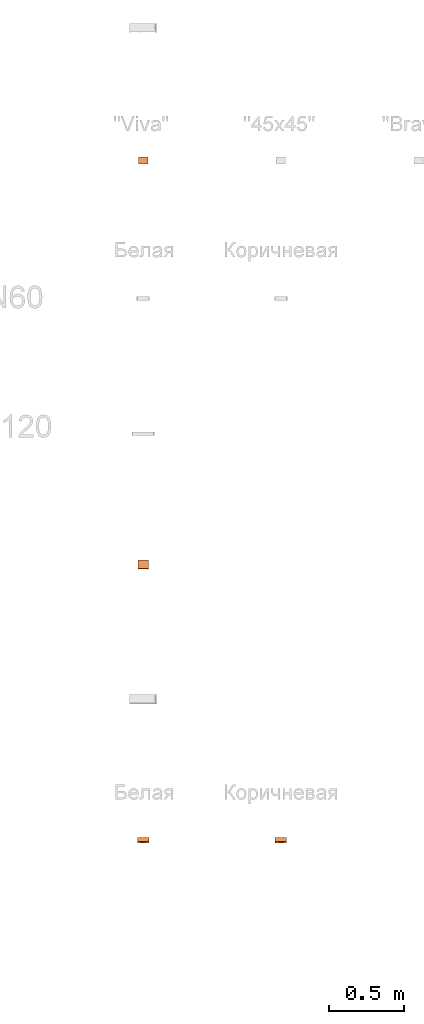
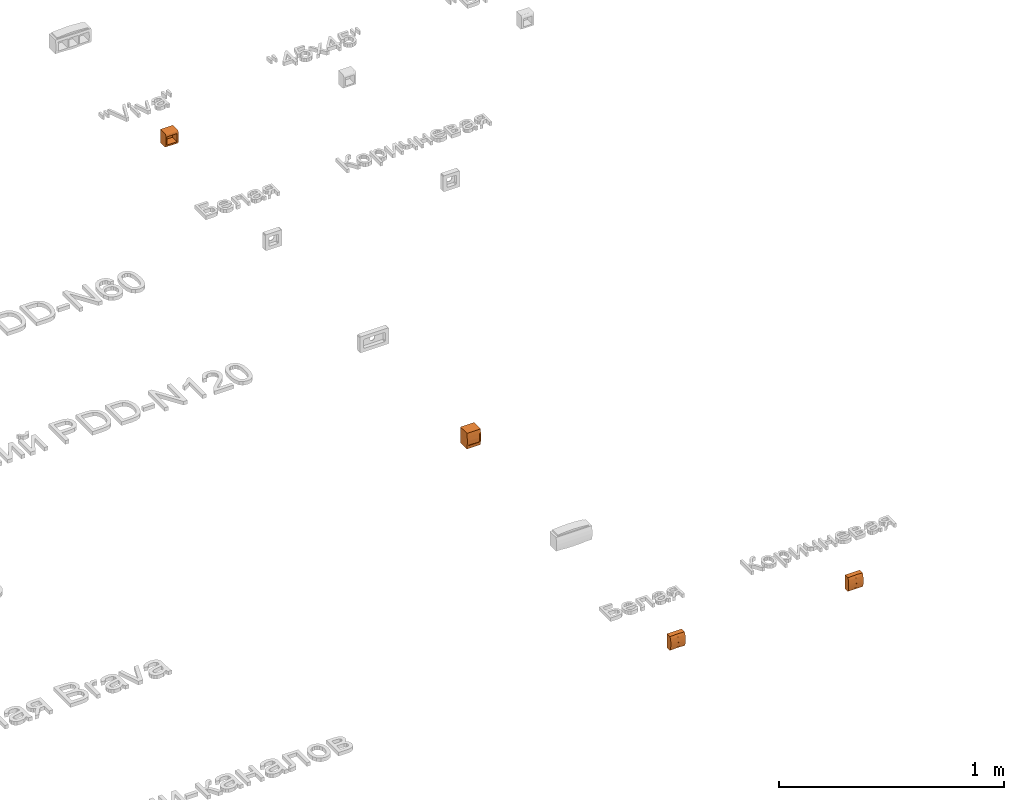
# One storey, part 79 of 87: 4 proxies.
"""IFC2X3 building model written with IfcOpenShell, lengths in millimetres."""

from ifc_helpers import new_model, entity, si_unit, converted_unit, derived_unit, direction, frame, origin, place, context, subcontext, project, spatial, faceted_brep, source, transform, mapped, material, material_list, type_object, type_shapes, element, save


model = new_model("IFC2X3")

# Units and contexts
model_context = context("Model", 3, precision=0.01, world=origin(), true_north=direction((6.12303176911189e-17, 1.0)))
body_context = subcontext(model_context, "Body", "Model", "MODEL_VIEW")
ifc_project = project(units=[si_unit("LENGTHUNIT", "METRE", prefix="MILLI"), si_unit("AREAUNIT", "SQUARE_METRE"), si_unit("VOLUMEUNIT", "CUBIC_METRE"), converted_unit("PLANEANGLEUNIT", "DEGREE", entity("IfcRatioMeasure", 0.0174532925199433), si_unit("PLANEANGLEUNIT", "RADIAN"), dimensions=[0, 0, 0, 0, 0, 0, 0]), si_unit("MASSUNIT", "GRAM", prefix="KILO"), derived_unit("MASSDENSITYUNIT", [(si_unit("MASSUNIT", "GRAM", prefix="KILO"), 1), (si_unit("LENGTHUNIT", "METRE"), -3)]), si_unit("TIMEUNIT", "SECOND"), si_unit("FREQUENCYUNIT", "HERTZ"), si_unit("THERMODYNAMICTEMPERATUREUNIT", "DEGREE_CELSIUS"), derived_unit("THERMALTRANSMITTANCEUNIT", [(si_unit("MASSUNIT", "GRAM", prefix="KILO"), 1), (si_unit("THERMODYNAMICTEMPERATUREUNIT", "KELVIN"), -1), (si_unit("TIMEUNIT", "SECOND"), -3)]), derived_unit("VOLUMETRICFLOWRATEUNIT", [(si_unit("LENGTHUNIT", "METRE"), 3), (si_unit("TIMEUNIT", "SECOND"), -1)]), si_unit("ELECTRICCURRENTUNIT", "AMPERE"), si_unit("ELECTRICVOLTAGEUNIT", "VOLT"), si_unit("POWERUNIT", "WATT"), si_unit("FORCEUNIT", "NEWTON", prefix="KILO"), si_unit("ILLUMINANCEUNIT", "LUX"), si_unit("LUMINOUSFLUXUNIT", "LUMEN"), si_unit("LUMINOUSINTENSITYUNIT", "CANDELA"), derived_unit("USERDEFINED", [(si_unit("MASSUNIT", "GRAM", prefix="KILO"), -1), (si_unit("LENGTHUNIT", "METRE"), -2), (si_unit("TIMEUNIT", "SECOND"), 3), (si_unit("LUMINOUSFLUXUNIT", "LUMEN"), 1)]), derived_unit("LINEARVELOCITYUNIT", [(si_unit("LENGTHUNIT", "METRE"), 1), (si_unit("TIMEUNIT", "SECOND"), -1)]), si_unit("PRESSUREUNIT", "PASCAL"), derived_unit("USERDEFINED", [(si_unit("LENGTHUNIT", "METRE"), -2), (si_unit("MASSUNIT", "GRAM", prefix="KILO"), 1), (si_unit("TIMEUNIT", "SECOND"), -2)])], contexts=[model_context])

# Site, building, storey
site_placement = place(None, origin())
site = spatial("IfcSite", under=ifc_project, at=site_placement, Name="Default", CompositionType="ELEMENT")
building_placement = place(site_placement, origin())
building = spatial("IfcBuilding", under=site, at=building_placement, Name="Наименование здания", CompositionType="ELEMENT")
storey_placement = place(building_placement, origin())
storey = spatial("IfcBuildingStorey", under=building, at=storey_placement, Name="Этаж 01", CompositionType="ELEMENT", Elevation=0.0)

# Proxies
ifc_material_1 = material(Name="DKC_Стекло")
ifc_material_2 = material(Name="DKC_Пластик_Белый")
ifc_material_list_1 = material_list([ifc_material_1, ifc_material_2])
ifc_material_list_2 = material_list([ifc_material_1, ifc_material_2])
building_element_proxy_type_1 = type_object("IfcBuildingElementProxyType", Name="Коробка для настенного монтажа, IP55_ILF_DKC", PredefinedType="NOTDEFINED", material=ifc_material_list_2)
shared_shape_1 = source(origin(), body_context, "Body", "Brep", [
    faceted_brep([(29.5, -58.2802164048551, -25.0), (29.5, -55.5236924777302, -25.0), (29.5, -55.5236924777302, 25.0), (29.5, -58.2802164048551, 25.0), (29.5, -60.0356017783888, 0.0), (-29.5000000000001, -58.2802164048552, 25.0), (-29.5000000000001, -55.5236924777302, 25.0), (-29.5000000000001, -55.5236924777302, -25.0), (-29.5000000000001, -58.2802164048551, -25.0), (-29.5000000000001, -60.0356017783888, 0.0)], [[[0, 1, 2, 3, 4]], [[5, 6, 7, 8, 9]], [[2, 1, 7, 6]], [[3, 2, 6, 5]], [[3, 5, 9, 4]], [[9, 8, 0, 4]], [[1, 0, 8, 7]]]),
    faceted_brep([(-24.5000000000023, -10.0, 25.0), (-28.035533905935, -10.0, 23.5355339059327), (-29.5000000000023, -10.0, 20.0), (-29.5000000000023, -10.0, -20.0), (-28.0355339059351, -10.0, -23.5355339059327), (-24.5000000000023, -10.0, -25.0), (24.5000000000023, -10.0, -25.0), (28.035533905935, -10.0, -23.5355339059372), (29.4999999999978, -10.0, -20.0), (29.5000000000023, -10.0, 20.0), (28.0355339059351, -10.0, 23.5355339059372), (24.5000000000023, -10.0, 25.0), (-24.5000000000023, -61.0404900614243, 25.0), (-24.5000000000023, -29.5192223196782, 25.0), (24.5000000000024, -29.5192235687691, 25.0), (24.5000000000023, -61.0404900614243, 25.0), (-5.66039347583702e-06, -61.0404900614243, 25.0), (-29.5000000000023, -42.0393486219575, 20.0), (-27.7357175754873, -35.6051790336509, 23.8118409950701), (-28.0403500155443, -61.2048111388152, 23.5307112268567), (-29.5000000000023, -61.5585715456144, 20.0), (-29.5000000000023, -62.4765697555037, 0.0), (-29.5000000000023, -61.5585715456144, -20.0), (-29.5000000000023, -42.0393490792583, -20.0), (-28.319432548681, -35.6003201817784, -23.2267530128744), (-24.5000000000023, -61.0404900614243, -25.0), (-24.5000000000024, -29.5192230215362, -25.0), (-28.038982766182, -61.2046625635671, -23.5320816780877), (24.5000000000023, -61.0404900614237, -25.0), (24.5000000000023, -29.5192227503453, -25.0), (0.0, -61.0404900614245, -25.0), (29.5000000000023, -42.0393480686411, -20.0), (27.7357175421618, -35.605178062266, -23.8118410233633), (28.0403500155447, -61.2048111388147, -23.5307112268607), (29.5000000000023, -61.5585715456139, -20.0), (29.5, -62.4765697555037, 0.0), (29.5000000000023, -61.5585715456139, 20.0), (29.5000000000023, -42.0393479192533, 20.0), (28.3195072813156, -35.5996010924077, 23.2266645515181), (28.0403500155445, -61.2048111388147, 23.5307112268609), (35.0, 0.0, -42.5000000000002), (35.0, 0.0, 42.5), (35.0, -58.2999999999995, 42.5000000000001), (35.0, -60.3882848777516, 21.2500000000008), (35.0, -62.4765697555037, 0.0), (35.0, -60.3882848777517, -21.2499999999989), (35.0, -58.2999999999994, -42.5000000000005), (-35.0, 0.0, 42.5), (-35.0, 0.0, -42.5000000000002), (-35.0, -58.2999999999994, -42.5000000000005), (-35.0, -60.3882848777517, -21.249999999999), (-35.0, -62.4765697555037, 0.0), (-35.0, -60.3882848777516, 21.2500000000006), (-35.0, -58.2999999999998, 42.4999999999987), (7.28068042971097e-06, -58.2999999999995, 42.5000000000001), (0.0, -58.2999999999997, -42.4999999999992)], [[[0, 1, 2, 3, 4, 5, 6, 7, 8, 9, 10, 11]], [[12, 13, 0, 11, 14, 15, 16]], [[17, 2, 18]], [[1, 0, 13]], [[1, 13, 18]], [[13, 12, 18]], [[18, 19, 17]], [[19, 18, 12]], [[2, 1, 18]], [[19, 20, 17]], [[21, 22, 23, 3, 2, 17, 20]], [[4, 3, 24]], [[24, 25, 26]], [[27, 24, 23]], [[26, 5, 4]], [[23, 22, 27]], [[4, 24, 26]], [[24, 27, 25]], [[23, 24, 3]], [[28, 29, 6, 5, 26, 25, 30]], [[31, 8, 32]], [[6, 29, 7]], [[7, 29, 32]], [[32, 33, 31]], [[33, 34, 31]], [[8, 7, 32]], [[33, 32, 28]], [[28, 32, 29]], [[35, 36, 37, 9, 8, 31, 34]], [[10, 9, 38]], [[38, 15, 14]], [[39, 38, 37]], [[14, 11, 10]], [[10, 38, 14]], [[37, 38, 9]], [[38, 39, 15]], [[37, 36, 39]], [[40, 41, 42, 43, 44, 45, 46]], [[47, 48, 49, 50, 51, 52, 53]], [[41, 40, 48, 47]], [[41, 47, 53, 54, 42]], [[12, 16, 15, 42, 54, 53]], [[19, 12, 53]], [[19, 53, 52]], [[55, 46, 28, 30, 25, 49]], [[52, 51, 20]], [[39, 36, 43]], [[39, 42, 15]], [[36, 35, 44]], [[51, 21, 20]], [[33, 45, 34]], [[44, 35, 34]], [[21, 51, 22]], [[43, 42, 39]], [[19, 52, 20]], [[50, 27, 22]], [[27, 50, 49]], [[27, 49, 25]], [[22, 51, 50]], [[36, 44, 43]], [[33, 46, 45]], [[28, 46, 33]], [[34, 45, 44]], [[40, 46, 55, 49, 48]]]),
])
type_shapes(building_element_proxy_type_1, [shared_shape_1])
proxy_1_placement = place(storey_placement, frame((44616.893252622, 497.914626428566, 0.0)))
element("IfcBuildingElementProxy", 1, at=proxy_1_placement, inside=storey, type_object=building_element_proxy_type_1, material=ifc_material_list_1, Name="КНС_КоробкаДляНастенногоМонтажаIP55_ILF_DKC:Коробка для настенного монтажа, IP55_ILF_DKC", ObjectType="Коробка для настенного монтажа, IP55_ILF_DKC", context=body_context, shape_type="MappedRepresentation", body=[
    mapped(shared_shape_1, transform((0.0, 0.0, 0.0), scale=1.0)),
])
building_element_proxy_type_2 = type_object("IfcBuildingElementProxyType", Name="Viva", PredefinedType="NOTDEFINED", material=ifc_material_2)
shared_shape_2 = source(origin(), body_context, "Body", "Brep", [
    faceted_brep([(32.0, -46.7740728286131, -28.2352380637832), (32.0, -45.5253175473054, -31.2500000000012), (32.0, -43.5388347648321, -33.8388347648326), (32.0, -40.9500000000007, -35.8253175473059), (32.0, -37.9352380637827, -37.0740728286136), (32.0, -34.7000000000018, -37.5000000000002), (32.0, 0.0, -37.5000000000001), (32.0, 0.0, 37.5000000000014), (32.0, -37.2000000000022, 37.4999999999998), (32.0, -39.788190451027, 37.1592582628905), (32.0, -42.2000000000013, 36.1602540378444), (32.0, -44.2710678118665, 34.5710678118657), (32.0, -45.8602540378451, 32.5000000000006), (32.0, -46.8592582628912, 30.0881904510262), (32.0, -47.1999999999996, 27.4999999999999), (32.0, -47.1999999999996, -25.0), (-32.0, -47.2000000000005, 27.5000000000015), (-32.0, -46.8592582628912, 30.0881904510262), (-32.0, -45.8602540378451, 32.5000000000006), (-32.0, -44.2710678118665, 34.5710678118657), (-32.0, -42.2000000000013, 36.1602540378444), (-32.0, -39.788190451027, 37.1592582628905), (-32.0, -37.2000000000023, 37.4999999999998), (-32.0, 0.0, 37.5000000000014), (-32.0, 0.0, -37.5000000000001), (-32.0, -34.7000000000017, -37.5000000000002), (-32.0, -37.9352380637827, -37.0740728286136), (-32.0, -40.9500000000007, -35.8253175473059), (-32.0, -43.5388347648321, -33.8388347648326), (-32.0, -45.5253175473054, -31.2500000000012), (-32.0, -46.7740728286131, -28.2352380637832), (-32.0, -47.1999999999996, -25.0), (-25.0, -6.30848607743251, 22.5000000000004), (-25.0, -6.30848607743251, -22.5000000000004), (25.0, -6.30848607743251, -22.5000000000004), (25.0, -6.30848607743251, 22.5000000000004), (-25.0, -47.1999999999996, 22.5000000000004), (-25.0, -47.1999999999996, -22.5000000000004), (25.0, -47.1999999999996, -22.5000000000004), (25.0, -47.1999999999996, 22.5000000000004)], [[[0, 1, 2, 3, 4, 5, 6, 7, 8, 9, 10, 11, 12, 13, 14, 15]], [[16, 17, 18, 19, 20, 21, 22, 23, 24, 25, 26, 27, 28, 29, 30, 31]], [[7, 6, 24, 23]], [[8, 7, 23, 22]], [[6, 5, 25, 24]], [[32, 33, 34, 35]], [[32, 36, 37, 33]], [[33, 37, 38, 34]], [[34, 38, 39, 35]], [[32, 35, 39, 36]], [[9, 8, 22, 21]], [[10, 9, 21, 20]], [[11, 10, 20, 19]], [[19, 18, 12, 11]], [[12, 18, 17, 13]], [[14, 13, 17, 16]], [[14, 39, 15]], [[39, 14, 36]], [[16, 36, 14]], [[36, 16, 31]], [[37, 31, 15]], [[31, 37, 36]], [[38, 15, 39]], [[15, 38, 37]], [[0, 15, 31, 30]], [[1, 0, 30, 29]], [[2, 1, 29, 28]], [[3, 2, 28, 27]], [[4, 3, 27, 26]], [[5, 4, 26, 25]]]),
])
type_shapes(building_element_proxy_type_2, [shared_shape_2])
proxy_2_placement = place(storey_placement, frame((44616.893252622, 3174.06426232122, 0.0)))
element("IfcBuildingElementProxy", 2, at=proxy_2_placement, inside=storey, type_object=building_element_proxy_type_2, material=ifc_material_2, Name="КНС_КоробкаМонтажнаяПод2модуляЭлектроустановочныхИзделий_ILF_DKC:Viva", ObjectType="Viva", context=body_context, shape_type="MappedRepresentation", body=[
    mapped(shared_shape_2, transform((0.0, 0.0, 0.0), scale=1.0)),
])
building_element_proxy_type_3 = type_object("IfcBuildingElementProxyType", Name="Белый", PredefinedType="NOTDEFINED", material=ifc_material_2)
shared_shape_3 = source(origin(), body_context, "Body", "Brep", [
    faceted_brep([(37.75, -33.7492791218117, -8.40016525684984), (37.75, -33.3087374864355, -13.7916236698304), (37.75, -32.6602540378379, -18.874999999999), (37.75, -31.8183148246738, -23.5367400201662), (37.75, -30.8017273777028, -27.672708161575), (37.75, -29.6332005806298, -31.1905137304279), (37.75, -28.3388373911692, -34.0115747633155), (37.75, -26.9475517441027, -36.072873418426), (37.75, -25.4904226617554, -37.3283636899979), (37.75, -24.0, -37.7499999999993), (37.75, 0.0, -37.7499999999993), (37.75, 0.0, 37.7500000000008), (37.75, -24.0, 37.7500000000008), (37.75, -25.4904226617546, 37.3283636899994), (37.75, -26.9475517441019, 36.0728734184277), (37.75, -28.3388373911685, 34.0115747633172), (37.75, -29.6332005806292, 31.1905137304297), (37.75, -30.8017273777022, 27.6727081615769), (37.75, -31.8183148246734, 23.5367400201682), (37.75, -32.6602540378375, 18.875000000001), (37.75, -33.3087374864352, 13.7916236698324), (37.75, -33.7492791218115, 8.40016525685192), (37.75, -33.9720379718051, 2.82106103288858), (37.75, -33.9720379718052, -2.82106103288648), (-37.75, -24.0, -37.7499999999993), (-37.75, -25.4904226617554, -37.3283636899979), (-37.75, -26.9475517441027, -36.072873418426), (-37.75, -28.3388373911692, -34.0115747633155), (-37.75, -29.6332005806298, -31.1905137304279), (-37.75, -30.8017273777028, -27.672708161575), (-37.75, -31.8183148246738, -23.5367400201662), (-37.75, -32.6602540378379, -18.874999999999), (-37.75, -33.3087374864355, -13.7916236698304), (-37.75, -33.7492791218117, -8.40016525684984), (-37.75, -33.9720379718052, -2.82106103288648), (-37.75, -33.9720379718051, 2.82106103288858), (-37.75, -33.7492791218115, 8.40016525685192), (-37.75, -33.3087374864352, 13.7916236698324), (-37.75, -32.6602540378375, 18.875000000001), (-37.75, -31.8183148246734, 23.5367400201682), (-37.75, -30.8017273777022, 27.6727081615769), (-37.75, -29.6332005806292, 31.1905137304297), (-37.75, -28.3388373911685, 34.0115747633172), (-37.75, -26.9475517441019, 36.0728734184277), (-37.75, -25.4904226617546, 37.3283636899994), (-37.75, -24.0, 37.7500000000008), (-37.75, 0.0, 37.7500000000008), (-37.75, 0.0, -37.7499999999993), (9.5626159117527, -24.0, 37.7500000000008), (-7.87059281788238e-06, -31.33051930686, 25.6765184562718), (9.5626150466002, -24.0, -37.7499999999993), (-8.91281962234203e-08, -31.3305185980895, -25.6765213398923), (0.868625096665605, -33.9145668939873, 4.92397100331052), (2.50060251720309, -33.93400622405, 4.32977909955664), (4.69856269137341, -33.9897372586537, 1.70982707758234), (3.83106840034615, -33.9637150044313, 3.21292933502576), (5.0, -34.0, 0.0), (-3.82962468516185, -33.9636760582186, 3.21465002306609), (-2.50025578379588, -33.9340000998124, 4.32997933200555), (-0.867399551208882, -33.9145593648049, 4.92418704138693), (-4.69844984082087, -33.9897335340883, 1.71013715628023), (-5.0, -34.0, 0.0), (4.69856269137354, -33.9897372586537, -1.70982707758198), (2.50060251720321, -33.93400622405, -4.32977909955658), (3.83106840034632, -33.9637150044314, -3.21292933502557), (0.868625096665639, -33.9145668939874, -4.92397100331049), (-3.82962468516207, -33.9636760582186, -3.21465002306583), (-4.69844984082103, -33.9897335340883, -1.71013715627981), (-0.867399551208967, -33.9145593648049, -4.92418704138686), (-2.50025578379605, -33.9340000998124, -4.32997933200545), (2.5, -32.3886043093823, 4.33012701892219), (1.29409522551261, -32.3886043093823, 4.82962913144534), (0.0, -32.3886043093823, 5.0), (-1.2940952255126, -32.3886043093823, 4.82962913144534), (-2.49999999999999, -32.3886043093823, 4.3301270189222), (-3.53553390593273, -32.3886043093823, 3.53553390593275), (-4.33012701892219, -32.3886043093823, 2.50000000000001), (-4.82962913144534, -32.3886043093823, 1.29409522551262), (-5.0, -32.3886043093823, 0.0), (-4.82962913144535, -32.3886043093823, -1.29409522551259), (-4.3301270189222, -32.3886043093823, -2.49999999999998), (-3.53553390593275, -32.3886043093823, -3.53553390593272), (-2.50000000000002, -32.3886043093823, -4.33012701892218), (-1.29409522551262, -32.3886043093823, -4.82962913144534), (0.0, -32.3886043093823, -5.0), (1.29409522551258, -32.3886043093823, -4.82962913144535), (2.49999999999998, -32.3886043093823, -4.33012701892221), (3.53553390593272, -32.3886043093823, -3.53553390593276), (4.33012701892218, -32.3886043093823, -2.50000000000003), (4.82962913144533, -32.3886043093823, -1.29409522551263), (5.0, -32.3886043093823, 0.0), (4.82962913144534, -32.3886043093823, 1.2940952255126), (4.33012701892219, -32.3886043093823, 2.5), (3.53553390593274, -32.3886043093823, 3.53553390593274)], [[[0, 1, 2, 3, 4, 5, 6, 7, 8, 9, 10, 11, 12, 13, 14, 15, 16, 17, 18, 19, 20, 21, 22, 23]], [[24, 25, 26, 27, 28, 29, 30, 31, 32, 33, 34, 35, 36, 37, 38, 39, 40, 41, 42, 43, 44, 45, 46, 47]], [[15, 14, 48]], [[16, 15, 49]], [[15, 48, 49]], [[50, 51, 27]], [[18, 17, 49]], [[39, 49, 40]], [[49, 17, 16]], [[49, 48, 42]], [[20, 49, 52]], [[53, 21, 20]], [[21, 54, 22]], [[21, 53, 55]], [[22, 54, 56]], [[54, 21, 55]], [[56, 23, 22]], [[19, 49, 20]], [[20, 52, 53]], [[48, 13, 12]], [[48, 45, 44]], [[43, 42, 48]], [[49, 19, 18]], [[41, 40, 49]], [[42, 41, 49]], [[50, 7, 6]], [[51, 30, 29]], [[48, 14, 13]], [[39, 38, 49]], [[48, 44, 43]], [[49, 38, 37]], [[36, 57, 58]], [[37, 58, 59]], [[36, 58, 37]], [[60, 35, 61]], [[36, 35, 60]], [[36, 60, 57]], [[59, 49, 37]], [[49, 59, 52]], [[0, 23, 62]], [[1, 0, 63]], [[0, 62, 64]], [[1, 63, 65]], [[63, 0, 64]], [[1, 51, 2]], [[26, 25, 50]], [[50, 8, 7]], [[50, 9, 8]], [[50, 25, 24]], [[51, 3, 2]], [[51, 6, 5]], [[51, 50, 6]], [[51, 4, 3]], [[33, 66, 67]], [[32, 68, 69]], [[33, 69, 66]], [[35, 34, 61]], [[34, 67, 61]], [[33, 67, 34]], [[33, 32, 69]], [[68, 32, 51]], [[68, 51, 65]], [[1, 65, 51]], [[51, 32, 31]], [[31, 30, 51]], [[51, 29, 28]], [[4, 51, 5]], [[51, 28, 27]], [[26, 50, 27]], [[23, 56, 62]], [[10, 9, 50, 24, 47]], [[11, 10, 47, 46]], [[11, 46, 45, 48, 12]], [[70, 71, 72, 73, 74, 75, 76, 77, 78, 79, 80, 81, 82, 83, 84, 85, 86, 87, 88, 89, 90, 91, 92, 93]], [[79, 78, 67]], [[81, 80, 66]], [[67, 80, 79]], [[69, 82, 81]], [[67, 66, 80]], [[78, 61, 67]], [[69, 68, 82]], [[81, 66, 69]], [[84, 83, 68]], [[68, 83, 82]], [[84, 65, 85]], [[85, 65, 86]], [[88, 87, 64]], [[63, 87, 86]], [[89, 88, 62]], [[63, 86, 65]], [[64, 87, 63]], [[56, 90, 62]], [[88, 64, 62]], [[90, 89, 62]], [[68, 65, 84]], [[91, 90, 54]], [[93, 92, 55]], [[54, 92, 91]], [[53, 70, 93]], [[54, 55, 92]], [[90, 56, 54]], [[53, 52, 70]], [[93, 55, 53]], [[72, 71, 52]], [[52, 71, 70]], [[72, 59, 73]], [[73, 59, 74]], [[76, 75, 57]], [[58, 75, 74]], [[77, 76, 60]], [[58, 74, 59]], [[57, 75, 58]], [[61, 78, 60]], [[76, 57, 60]], [[78, 77, 60]], [[52, 59, 72]]]),
])
type_shapes(building_element_proxy_type_3, [shared_shape_3])
proxy_3_placement = place(storey_placement, frame((44616.893252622, -1347.49899172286, 0.0)))
element("IfcBuildingElementProxy", 3, at=proxy_3_placement, inside=storey, type_object=building_element_proxy_type_3, material=ifc_material_2, Name="КНС_КоробкаРаспределительнаяSDMNДляМини-каналов_ILF_DKC:Белый", ObjectType="Белый", context=body_context, shape_type="MappedRepresentation", body=[
    mapped(shared_shape_3, transform((0.0, 0.0, 0.0), scale=1.0)),
])
ifc_material_3 = material(Name="DKC_Пластик_Коричневый")
building_element_proxy_type_4 = type_object("IfcBuildingElementProxyType", Name="Коричневый", PredefinedType="NOTDEFINED", material=ifc_material_3)
shared_shape_4 = source(origin(), body_context, "Body", "Brep", [
    faceted_brep([(37.75, -33.7492791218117, -8.40016525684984), (37.75, -33.3087374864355, -13.7916236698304), (37.75, -32.6602540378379, -18.874999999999), (37.75, -31.8183148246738, -23.5367400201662), (37.75, -30.8017273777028, -27.672708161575), (37.75, -29.6332005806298, -31.1905137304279), (37.75, -28.3388373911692, -34.0115747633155), (37.75, -26.9475517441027, -36.072873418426), (37.75, -25.4904226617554, -37.3283636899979), (37.75, -24.0, -37.7499999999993), (37.75, 0.0, -37.7499999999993), (37.75, 0.0, 37.7500000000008), (37.75, -24.0, 37.7500000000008), (37.75, -25.4904226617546, 37.3283636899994), (37.75, -26.9475517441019, 36.0728734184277), (37.75, -28.3388373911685, 34.0115747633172), (37.75, -29.6332005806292, 31.1905137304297), (37.75, -30.8017273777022, 27.6727081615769), (37.75, -31.8183148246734, 23.5367400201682), (37.75, -32.6602540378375, 18.875000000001), (37.75, -33.3087374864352, 13.7916236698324), (37.75, -33.7492791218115, 8.40016525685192), (37.75, -33.9720379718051, 2.82106103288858), (37.75, -33.9720379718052, -2.82106103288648), (-37.75, -24.0, -37.7499999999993), (-37.75, -25.4904226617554, -37.3283636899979), (-37.75, -26.9475517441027, -36.072873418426), (-37.75, -28.3388373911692, -34.0115747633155), (-37.75, -29.6332005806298, -31.1905137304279), (-37.75, -30.8017273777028, -27.672708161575), (-37.75, -31.8183148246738, -23.5367400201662), (-37.75, -32.6602540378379, -18.874999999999), (-37.75, -33.3087374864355, -13.7916236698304), (-37.75, -33.7492791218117, -8.40016525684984), (-37.75, -33.9720379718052, -2.82106103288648), (-37.75, -33.9720379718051, 2.82106103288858), (-37.75, -33.7492791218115, 8.40016525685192), (-37.75, -33.3087374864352, 13.7916236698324), (-37.75, -32.6602540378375, 18.875000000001), (-37.75, -31.8183148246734, 23.5367400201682), (-37.75, -30.8017273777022, 27.6727081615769), (-37.75, -29.6332005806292, 31.1905137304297), (-37.75, -28.3388373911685, 34.0115747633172), (-37.75, -26.9475517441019, 36.0728734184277), (-37.75, -25.4904226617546, 37.3283636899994), (-37.75, -24.0, 37.7500000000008), (-37.75, 0.0, 37.7500000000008), (-37.75, 0.0, -37.7499999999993), (9.5626159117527, -24.0, 37.7500000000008), (-7.87059281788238e-06, -31.33051930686, 25.6765184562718), (9.5626150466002, -24.0, -37.7499999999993), (-8.91281962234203e-08, -31.3305185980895, -25.6765213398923), (0.868625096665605, -33.9145668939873, 4.92397100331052), (2.50060251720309, -33.93400622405, 4.32977909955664), (4.69856269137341, -33.9897372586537, 1.70982707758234), (3.83106840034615, -33.9637150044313, 3.21292933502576), (5.0, -34.0, 0.0), (-3.82962468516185, -33.9636760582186, 3.21465002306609), (-2.50025578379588, -33.9340000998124, 4.32997933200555), (-0.867399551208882, -33.9145593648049, 4.92418704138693), (-4.69844984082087, -33.9897335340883, 1.71013715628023), (-5.0, -34.0, 0.0), (4.69856269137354, -33.9897372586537, -1.70982707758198), (2.50060251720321, -33.93400622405, -4.32977909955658), (3.83106840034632, -33.9637150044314, -3.21292933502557), (0.868625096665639, -33.9145668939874, -4.92397100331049), (-3.82962468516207, -33.9636760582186, -3.21465002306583), (-4.69844984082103, -33.9897335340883, -1.71013715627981), (-0.867399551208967, -33.9145593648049, -4.92418704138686), (-2.50025578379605, -33.9340000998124, -4.32997933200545), (2.5, -32.3886043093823, 4.33012701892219), (1.29409522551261, -32.3886043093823, 4.82962913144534), (0.0, -32.3886043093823, 5.0), (-1.2940952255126, -32.3886043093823, 4.82962913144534), (-2.49999999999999, -32.3886043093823, 4.3301270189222), (-3.53553390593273, -32.3886043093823, 3.53553390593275), (-4.33012701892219, -32.3886043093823, 2.50000000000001), (-4.82962913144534, -32.3886043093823, 1.29409522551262), (-5.0, -32.3886043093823, 0.0), (-4.82962913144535, -32.3886043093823, -1.29409522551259), (-4.3301270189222, -32.3886043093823, -2.49999999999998), (-3.53553390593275, -32.3886043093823, -3.53553390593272), (-2.50000000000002, -32.3886043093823, -4.33012701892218), (-1.29409522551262, -32.3886043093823, -4.82962913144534), (0.0, -32.3886043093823, -5.0), (1.29409522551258, -32.3886043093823, -4.82962913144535), (2.49999999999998, -32.3886043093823, -4.33012701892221), (3.53553390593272, -32.3886043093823, -3.53553390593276), (4.33012701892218, -32.3886043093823, -2.50000000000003), (4.82962913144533, -32.3886043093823, -1.29409522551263), (5.0, -32.3886043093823, 0.0), (4.82962913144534, -32.3886043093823, 1.2940952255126), (4.33012701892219, -32.3886043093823, 2.5), (3.53553390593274, -32.3886043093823, 3.53553390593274)], [[[0, 1, 2, 3, 4, 5, 6, 7, 8, 9, 10, 11, 12, 13, 14, 15, 16, 17, 18, 19, 20, 21, 22, 23]], [[24, 25, 26, 27, 28, 29, 30, 31, 32, 33, 34, 35, 36, 37, 38, 39, 40, 41, 42, 43, 44, 45, 46, 47]], [[15, 14, 48]], [[16, 15, 49]], [[15, 48, 49]], [[50, 51, 27]], [[18, 17, 49]], [[39, 49, 40]], [[49, 17, 16]], [[49, 48, 42]], [[20, 49, 52]], [[53, 21, 20]], [[21, 54, 22]], [[21, 53, 55]], [[22, 54, 56]], [[54, 21, 55]], [[56, 23, 22]], [[19, 49, 20]], [[20, 52, 53]], [[48, 13, 12]], [[48, 45, 44]], [[43, 42, 48]], [[49, 19, 18]], [[41, 40, 49]], [[42, 41, 49]], [[50, 7, 6]], [[51, 30, 29]], [[48, 14, 13]], [[39, 38, 49]], [[48, 44, 43]], [[49, 38, 37]], [[36, 57, 58]], [[37, 58, 59]], [[36, 58, 37]], [[60, 35, 61]], [[36, 35, 60]], [[36, 60, 57]], [[59, 49, 37]], [[49, 59, 52]], [[0, 23, 62]], [[1, 0, 63]], [[0, 62, 64]], [[1, 63, 65]], [[63, 0, 64]], [[1, 51, 2]], [[26, 25, 50]], [[50, 8, 7]], [[50, 9, 8]], [[50, 25, 24]], [[51, 3, 2]], [[51, 6, 5]], [[51, 50, 6]], [[51, 4, 3]], [[33, 66, 67]], [[32, 68, 69]], [[33, 69, 66]], [[35, 34, 61]], [[34, 67, 61]], [[33, 67, 34]], [[33, 32, 69]], [[68, 32, 51]], [[68, 51, 65]], [[1, 65, 51]], [[51, 32, 31]], [[31, 30, 51]], [[51, 29, 28]], [[4, 51, 5]], [[51, 28, 27]], [[26, 50, 27]], [[23, 56, 62]], [[10, 9, 50, 24, 47]], [[11, 10, 47, 46]], [[11, 46, 45, 48, 12]], [[70, 71, 72, 73, 74, 75, 76, 77, 78, 79, 80, 81, 82, 83, 84, 85, 86, 87, 88, 89, 90, 91, 92, 93]], [[79, 78, 67]], [[81, 80, 66]], [[67, 80, 79]], [[69, 82, 81]], [[67, 66, 80]], [[78, 61, 67]], [[69, 68, 82]], [[81, 66, 69]], [[84, 83, 68]], [[68, 83, 82]], [[84, 65, 85]], [[85, 65, 86]], [[88, 87, 64]], [[63, 87, 86]], [[89, 88, 62]], [[63, 86, 65]], [[64, 87, 63]], [[56, 90, 62]], [[88, 64, 62]], [[90, 89, 62]], [[68, 65, 84]], [[91, 90, 54]], [[93, 92, 55]], [[54, 92, 91]], [[53, 70, 93]], [[54, 55, 92]], [[90, 56, 54]], [[53, 52, 70]], [[93, 55, 53]], [[72, 71, 52]], [[52, 71, 70]], [[72, 59, 73]], [[73, 59, 74]], [[76, 75, 57]], [[58, 75, 74]], [[77, 76, 60]], [[58, 74, 59]], [[57, 75, 58]], [[61, 78, 60]], [[76, 57, 60]], [[78, 77, 60]], [[52, 59, 72]]]),
])
type_shapes(building_element_proxy_type_4, [shared_shape_4])
proxy_4_placement = place(storey_placement, frame((45531.8513453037, -1347.49899172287, 0.0)))
element("IfcBuildingElementProxy", 4, at=proxy_4_placement, inside=storey, type_object=building_element_proxy_type_4, material=ifc_material_3, Name="КНС_КоробкаРаспределительнаяSDMNДляМини-каналов_ILF_DKC:Коричневый", ObjectType="Коричневый", context=body_context, shape_type="MappedRepresentation", body=[
    mapped(shared_shape_4, transform((0.0, 0.0, 0.0), scale=1.0)),
])

save(model, "model.ifc")
